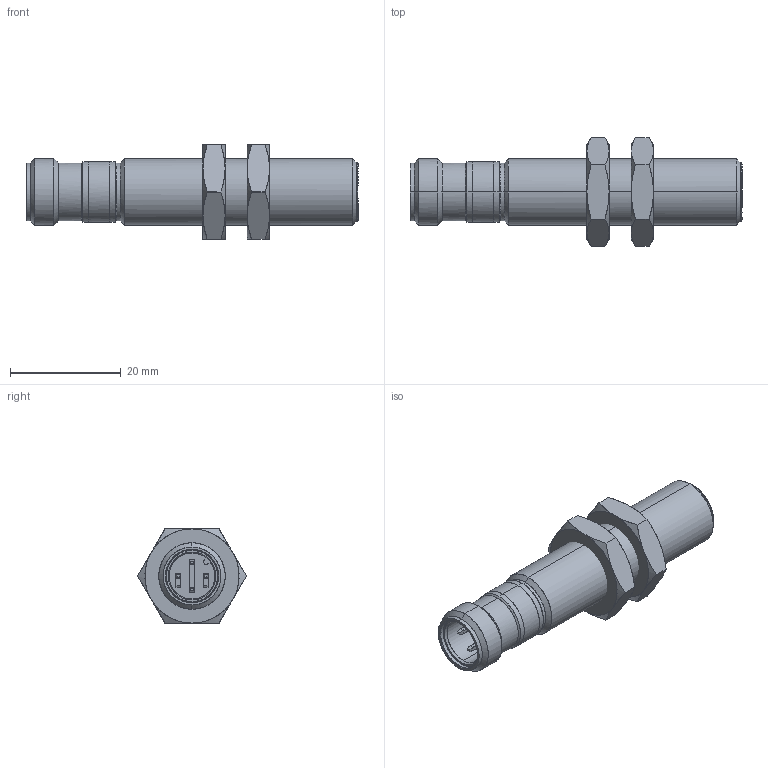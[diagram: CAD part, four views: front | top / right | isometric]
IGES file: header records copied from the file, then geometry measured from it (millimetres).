
Start section: Comment
Global section: file name: IFRR 12xx7T1_S14L-9.igs; native system:  By UGS Corp.; preprocessor: XPlus GENERIC/IGES 3.0; author: Author; organization: Title; date: 20100412.081456; units: millimetre
Bounding box: 59.95 x 19.63 x 17 mm (x, y, z)
Surface area: 4288.7 mm2 (no closed solid volume)
Topology: 0 solids, 0 shells, 175 faces, 848 edges, 848 vertices
Faces by surface type: bspline 175
